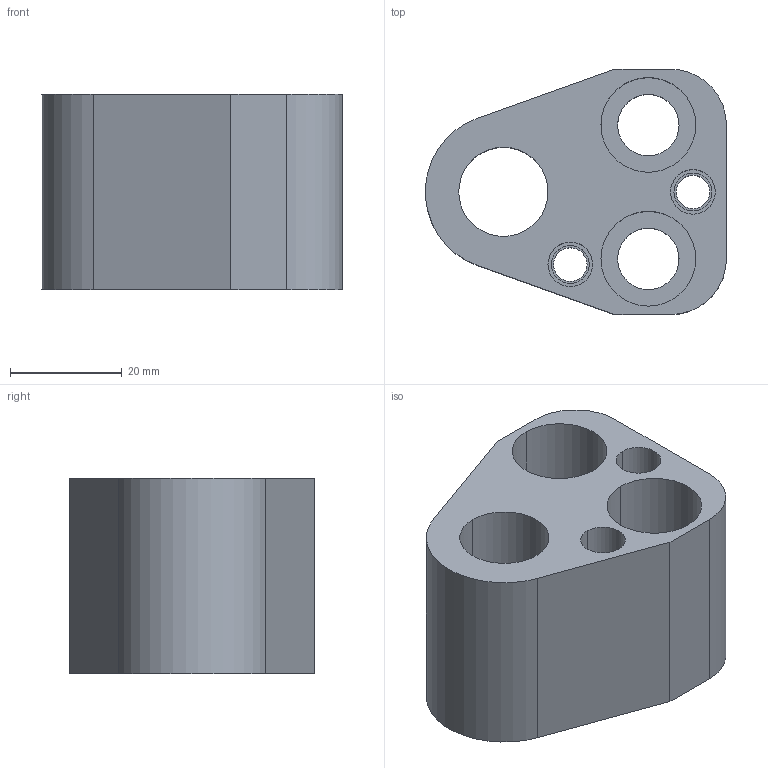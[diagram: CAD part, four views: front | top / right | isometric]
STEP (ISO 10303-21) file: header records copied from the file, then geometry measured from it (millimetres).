
FILE_DESCRIPTION(/* description */ (''),/* implementation_level */ '2;1');
FILE_NAME(/* name */ '3d_hap-an16_04000_r00.stp',/* time_stamp */ '2011-01-10T14:14:59+09:00',/* author */ ('MISUMI'),/* organization */ (''),/* preprocessor_version */ 'ST-DEVELOPER v11',/* originating_system */ 'UGS - NX 5.0',/* authorisation */ '');
FILE_SCHEMA (('CONFIG_CONTROL_DESIGN'));
Length unit declared in the file: millimetre
Products named in the file (1): 3d_hap-an16_04000_r00
Bounding box: 53.95 x 44 x 35 mm (x, y, z)
Volume: 42976.3 mm3; surface area: 15141.3 mm2
Topology: 1 solids, 1 shells, 43 faces, 100 edges, 66 vertices
Faces by surface type: cylinder 27, plane 14, cone 2
Entity records: 1360 total; most frequent: DIRECTION 244, CARTESIAN_POINT 210, ORIENTED_EDGE 200, EDGE_CURVE 100, AXIS2_PLACEMENT_3D 100, VERTEX_POINT 66, EDGE_LOOP 60, CIRCLE 56
